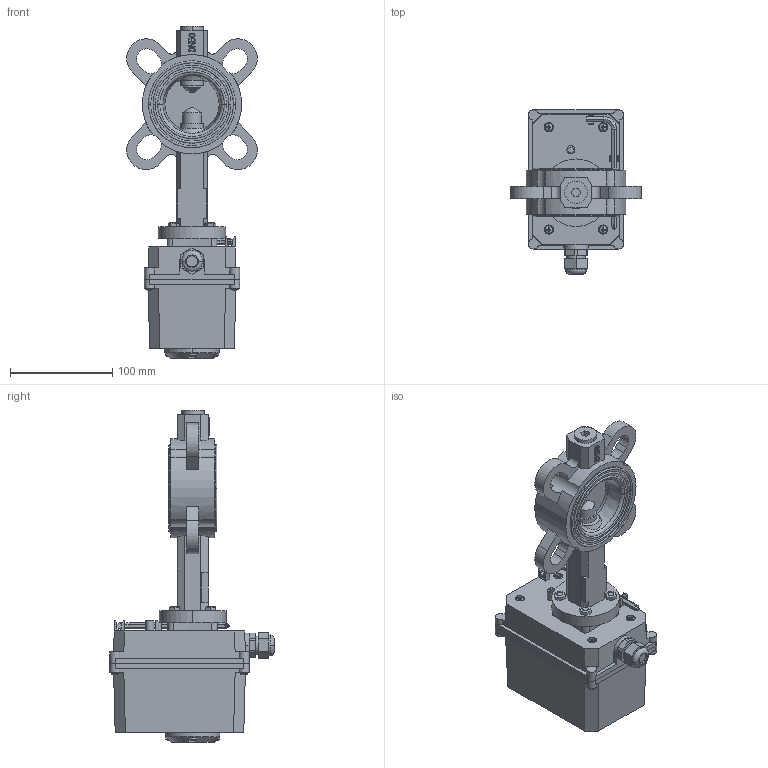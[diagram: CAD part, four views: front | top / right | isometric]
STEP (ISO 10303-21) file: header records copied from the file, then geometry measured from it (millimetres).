
FILE_DESCRIPTION((''),'2;1');
FILE_NAME('VBS_111_EARP_T_ASM','2025-02-21T',('USER'),(''),'PRO/ENGINEER BY PARAMETRIC TECHNOLOGY CORPORATION, 2011220','PRO/ENGINEER BY PARAMETRIC TECHNOLOGY CORPORATION, 2011220','');
FILE_SCHEMA(('CONFIG_CONTROL_DESIGN'));
Length unit declared in the file: millimetre
Products named in the file (20): KORPUS; REZ; DISK; SHTIR_1; ZAGLUSHKA; O-RING; SHTIR_2; SHAIBA_RAZREZ; SHAIBA; KOLCO_22_GOST13943; VTULKA; MANZET_REZ; SB_ASM; B-7798-M6-20; ELECTROPRIVOD; ELECTROPRIVOD_DET_2; SHLYAPKA_VINTA; KLYCH; SB_ELECTROPRIVOD_ASM; VBS_111_EARP_T_ASM
Assembly tree (39 placements, depth 3):
  VBS_111_EARP_T_ASM
    SB_ASM
      KORPUS
      REZ
      DISK
      SHTIR_1
      ZAGLUSHKA
      O-RING  x2
      SHTIR_2
      SHAIBA_RAZREZ
      SHAIBA  x2
      KOLCO_22_GOST13943
      VTULKA  x5
      MANZET_REZ
    B-7798-M6-20  x4
    SB_ELECTROPRIVOD_ASM
      ELECTROPRIVOD
      ELECTROPRIVOD_DET_2
      SHLYAPKA_VINTA  x12
      KLYCH
Bounding box: 127.66 x 160.5 x 324.5 mm (x, y, z)
Volume: 1518564 mm3; surface area: 246857.9 mm2
Topology: 37 solids, 52 shells, 1090 faces, 2784 edges, 1802 vertices
Faces by surface type: plane 687, cylinder 279, cone 66, torus 34, sphere 24
Entity records: 25610 total; most frequent: CARTESIAN_POINT 4854, DIRECTION 4441, ORIENTED_EDGE 4084, EDGE_CURVE 2066, AXIS2_PLACEMENT_3D 1551, VERTEX_POINT 1350, VECTOR 1339, LINE 1339
